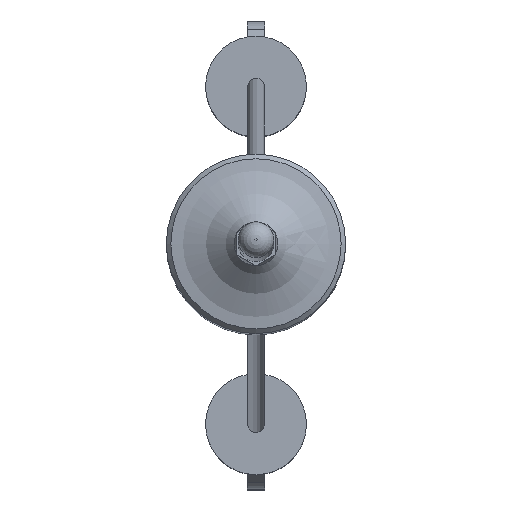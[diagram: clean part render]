
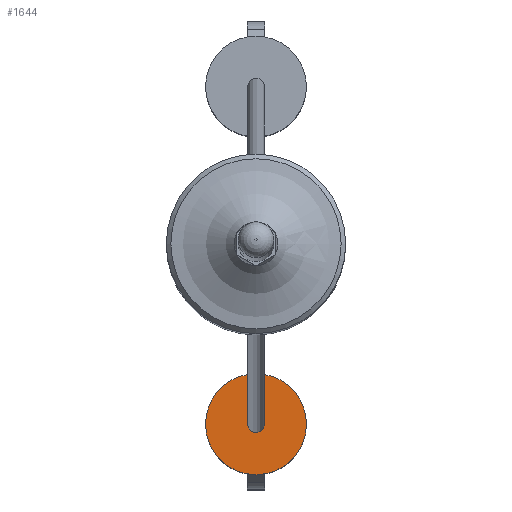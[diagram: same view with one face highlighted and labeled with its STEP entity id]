
A CAD part, top view. The second image highlights one B-rep face of the part: STEP entity #1644.
In plain terms, the highlighted planar face has unit normal (0, 0, 1).
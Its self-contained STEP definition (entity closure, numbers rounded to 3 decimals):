
#140 = DIRECTION ( 'NONE',  ( -1., 0., 0. ) ) ;
#329 = PLANE ( 'NONE',  #1933 ) ;
#351 = CARTESIAN_POINT ( 'NONE',  ( 0., -7.527, -300. ) ) ;
#352 = AXIS2_PLACEMENT_3D ( 'NONE', #351, #2087, #140 ) ;
#359 = CARTESIAN_POINT ( 'NONE',  ( -0.375, -7.527, -300. ) ) ;
#518 = FACE_BOUND ( 'NONE', #585, .T. ) ;
#585 = EDGE_LOOP ( 'NONE', ( #2121 ) ) ;
#871 = FACE_OUTER_BOUND ( 'NONE', #1320, .T. ) ;
#954 = ORIENTED_EDGE ( 'NONE', *, *, #2249, .T. ) ;
#1173 = DIRECTION ( 'NONE',  ( 0., 0., 1. ) ) ;
#1206 = CARTESIAN_POINT ( 'NONE',  ( 2.25, -7.527, -300. ) ) ;
#1320 = EDGE_LOOP ( 'NONE', ( #954 ) ) ;
#1342 = CIRCLE ( 'NONE', #352, 0.375 ) ;
#1415 = DIRECTION ( 'NONE',  ( 0., 0., 1. ) ) ;
#1559 = VERTEX_POINT ( 'NONE', #1206 ) ;
#1564 = DIRECTION ( 'NONE',  ( 1., 0., 0. ) ) ;
#1568 = VERTEX_POINT ( 'NONE', #359 ) ;
#1628 = EDGE_CURVE ( 'NONE', #1568, #1568, #1342, .T. ) ;
#1644 = ADVANCED_FACE ( 'NONE', ( #518, #871 ), #329, .T. ) ;
#1692 = AXIS2_PLACEMENT_3D ( 'NONE', #2046, #1173, #2172 ) ;
#1927 = CARTESIAN_POINT ( 'NONE',  ( 0., -7.527, -300. ) ) ;
#1933 = AXIS2_PLACEMENT_3D ( 'NONE', #1927, #1415, #1564 ) ;
#2046 = CARTESIAN_POINT ( 'NONE',  ( 0., -7.527, -300. ) ) ;
#2087 = DIRECTION ( 'NONE',  ( 0., 0., 1. ) ) ;
#2121 = ORIENTED_EDGE ( 'NONE', *, *, #1628, .F. ) ;
#2172 = DIRECTION ( 'NONE',  ( 1., 0., 0. ) ) ;
#2205 = CIRCLE ( 'NONE', #1692, 2.25 ) ;
#2249 = EDGE_CURVE ( 'NONE', #1559, #1559, #2205, .T. ) ;
